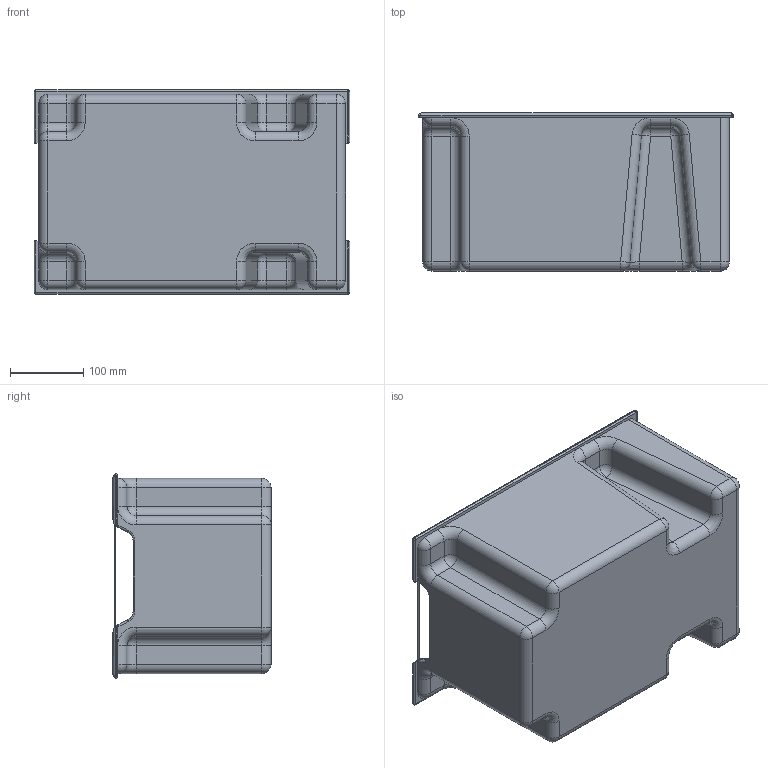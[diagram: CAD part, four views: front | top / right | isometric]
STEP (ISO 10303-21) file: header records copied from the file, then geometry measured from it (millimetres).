
FILE_DESCRIPTION (( 'STEP AP214' ), '1' );
FILE_NAME ('9FV Block Model.STEP', '2013-06-03T14:54:25', ( 'Bryant Conder' ), ( '' ), 'SwSTEP 2.0', 'SolidWorks 2013', '' );
FILE_SCHEMA (( 'AUTOMOTIVE_DESIGN' ));
Length unit declared in the file: inch
Products named in the file (1): 9FV Block Model
Bounding box: 431.34 x 215.9 x 279.21 mm (x, y, z)
Volume: 3152696.5 mm3; surface area: 811534.2 mm2
Topology: 1 solids, 1 shells, 331 faces, 803 edges, 430 vertices
Faces by surface type: cylinder 153, plane 58, bspline 52, torus 36, sphere 32
Entity records: 11343 total; most frequent: CARTESIAN_POINT 4193, ORIENTED_EDGE 1526, DIRECTION 1489, EDGE_CURVE 763, AXIS2_PLACEMENT_3D 594, VERTEX_POINT 430, EDGE_LOOP 331, ADVANCED_FACE 331
